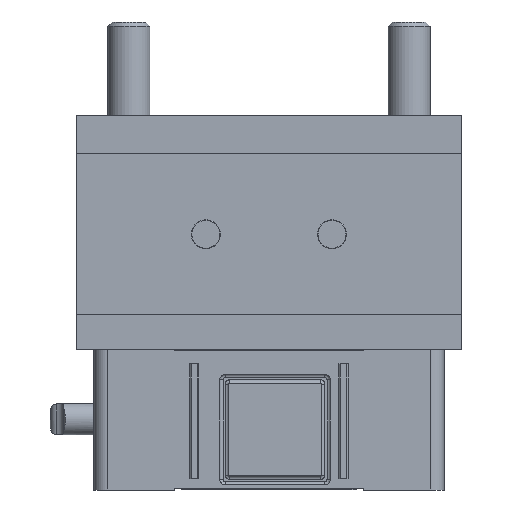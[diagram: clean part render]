
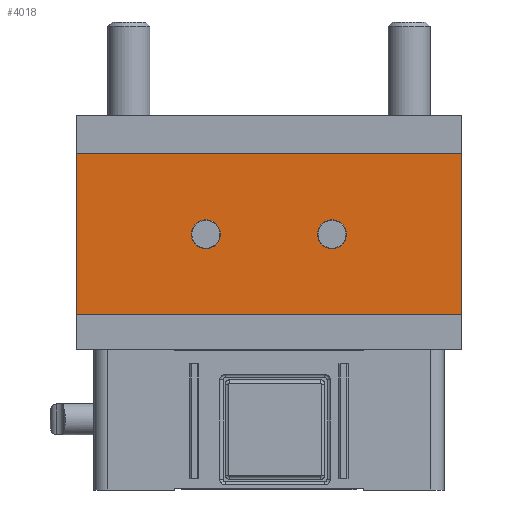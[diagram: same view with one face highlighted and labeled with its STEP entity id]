
A CAD part, front view. The second image highlights one B-rep face of the part: STEP entity #4018.
In plain terms, the highlighted planar face has unit normal (0, -1, 0) as drawn and (-1, 0, 0) by its records, which use the part's own axes.
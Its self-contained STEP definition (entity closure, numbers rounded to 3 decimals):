
#169=FACE_BOUND('',#664,.T.);
#170=FACE_BOUND('',#665,.T.);
#238=PLANE('',#4442);
#398=FACE_OUTER_BOUND('',#663,.T.);
#663=EDGE_LOOP('',(#2907,#2908,#2909,#2910));
#664=EDGE_LOOP('',(#2911));
#665=EDGE_LOOP('',(#2912));
#970=LINE('',#6137,#1347);
#971=LINE('',#6140,#1348);
#972=LINE('',#6142,#1349);
#973=LINE('',#6143,#1350);
#1347=VECTOR('',#4944,10.);
#1348=VECTOR('',#4947,10.);
#1349=VECTOR('',#4948,10.);
#1350=VECTOR('',#4949,10.);
#1707=CIRCLE('',#4434,2.067);
#1709=CIRCLE('',#4437,2.067);
#1876=VERTEX_POINT('',#6108);
#1878=VERTEX_POINT('',#6113);
#1886=VERTEX_POINT('',#6133);
#1887=VERTEX_POINT('',#6135);
#1888=VERTEX_POINT('',#6139);
#1889=VERTEX_POINT('',#6141);
#2278=EDGE_CURVE('',#1876,#1876,#1707,.T.);
#2280=EDGE_CURVE('',#1878,#1878,#1709,.T.);
#2291=EDGE_CURVE('',#1886,#1887,#970,.T.);
#2292=EDGE_CURVE('',#1888,#1886,#971,.T.);
#2293=EDGE_CURVE('',#1889,#1887,#972,.T.);
#2294=EDGE_CURVE('',#1888,#1889,#973,.T.);
#2907=ORIENTED_EDGE('',*,*,#2292,.T.);
#2908=ORIENTED_EDGE('',*,*,#2291,.T.);
#2909=ORIENTED_EDGE('',*,*,#2293,.F.);
#2910=ORIENTED_EDGE('',*,*,#2294,.F.);
#2911=ORIENTED_EDGE('',*,*,#2278,.T.);
#2912=ORIENTED_EDGE('',*,*,#2280,.T.);
#4018=ADVANCED_FACE('',(#398,#169,#170),#238,.T.);
#4434=AXIS2_PLACEMENT_3D('',#6109,#4919,#4920);
#4437=AXIS2_PLACEMENT_3D('',#6114,#4925,#4926);
#4442=AXIS2_PLACEMENT_3D('',#6138,#4945,#4946);
#4919=DIRECTION('center_axis',(1.,0.,0.));
#4920=DIRECTION('ref_axis',(0.,0.,-1.));
#4925=DIRECTION('center_axis',(1.,0.,0.));
#4926=DIRECTION('ref_axis',(0.,0.,-1.));
#4944=DIRECTION('',(0.,0.,1.));
#4945=DIRECTION('center_axis',(-1.,0.,0.));
#4946=DIRECTION('ref_axis',(0.,-1.,0.));
#4947=DIRECTION('',(0.,-1.,0.));
#4948=DIRECTION('',(0.,-1.,0.));
#4949=DIRECTION('',(0.,0.,1.));
#6108=CARTESIAN_POINT('',(-15.,16.5,38.567));
#6109=CARTESIAN_POINT('Origin',(-15.,16.5,36.5));
#6113=CARTESIAN_POINT('',(-15.,16.5,20.567));
#6114=CARTESIAN_POINT('Origin',(-15.,16.5,18.5));
#6133=CARTESIAN_POINT('',(-15.,5.,0.));
#6135=CARTESIAN_POINT('',(-15.,5.,55.));
#6137=CARTESIAN_POINT('',(-15.,5.,0.));
#6138=CARTESIAN_POINT('Origin',(-15.,28.,0.));
#6139=CARTESIAN_POINT('',(-15.,28.,0.));
#6140=CARTESIAN_POINT('',(-15.,28.,0.));
#6141=CARTESIAN_POINT('',(-15.,28.,55.));
#6142=CARTESIAN_POINT('',(-15.,28.,55.));
#6143=CARTESIAN_POINT('',(-15.,28.,0.));
